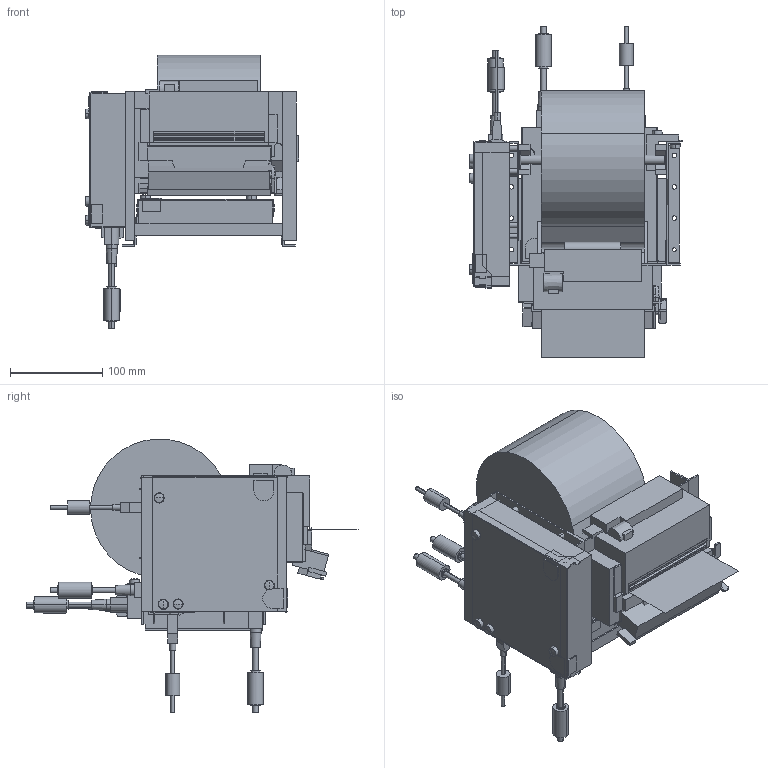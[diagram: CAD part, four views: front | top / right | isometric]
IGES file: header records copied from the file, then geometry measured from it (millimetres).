
Start section: Elysium IGES Interface
Global section: file name: X:\Sales\HP公開用\0916\TUP942_標準USB_0920_out.igs,    ; native system: Unknown; preprocessor: Unknown; author: CADDoctor; organization: ELYSIUM; date: 20110921.084018; units: millimetre
Bounding box: 230.7 x 359.1 x 296.23 mm (x, y, z)
Volume: 5544641.9 mm3; surface area: 620127.4 mm2
Topology: 12 solids, 12 shells, 864 faces, 2298 edges, 1512 vertices
Faces by surface type: bspline 864
